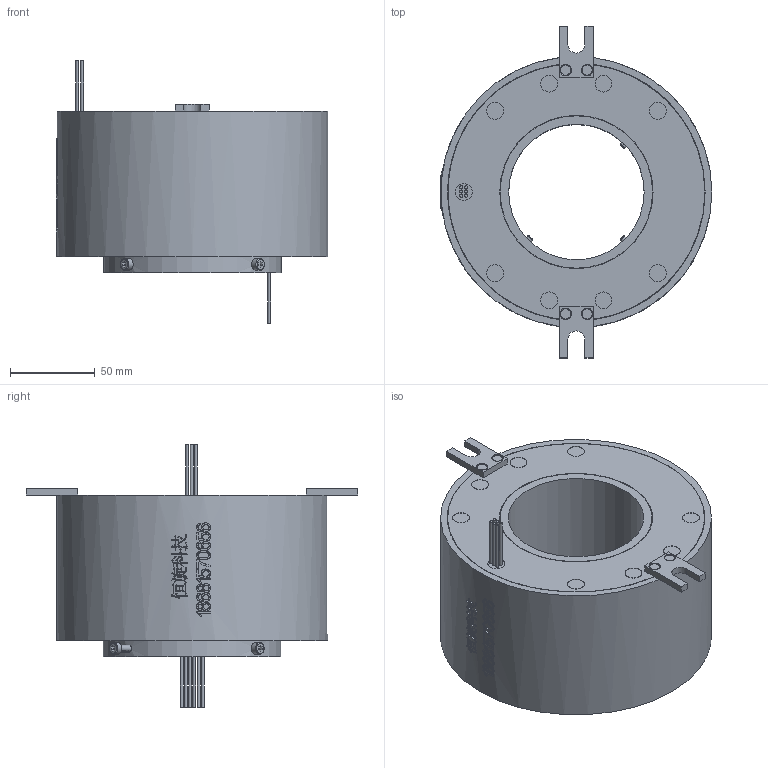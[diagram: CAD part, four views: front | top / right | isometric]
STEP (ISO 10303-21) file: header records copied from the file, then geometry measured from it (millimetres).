
FILE_DESCRIPTION(/* description */ (''),/* implementation_level */ '2;1');
FILE_NAME(/* name */ 'HDF80158-0610-3D模型.stp',/* time_stamp */ '2025-09-12T11:16:49+08:00',/* author */ (''),/* organization */ (''),/* preprocessor_version */ 'ST-DEVELOPER v16.7',/* originating_system */ 'SIEMENS PLM Software NX 12.0',/* authorisation */ '');
FILE_SCHEMA (('AUTOMOTIVE_DESIGN { 1 0 10303 214 3 1 1 1 }'));
Length unit declared in the file: millimetre
Products named in the file (1): Admi2290F644g9rj
Bounding box: 160.45 x 196 x 155.1 mm (x, y, z)
Volume: 1336343.5 mm3; surface area: 108478 mm2
Topology: 1 solids, 5 shells, 760 faces, 1984 edges, 1318 vertices
Faces by surface type: plane 329, extrusion 313, cylinder 72, bspline 30, cone 12, torus 4
Full cylindrical faces by diameter (mm): 1.8 x12, 3 x4, 3.4 x1, 3.5 x4, 4 x7, 6 x4, 7 x4, 10 x9, 80 x1, 90 x1, 90.5 x1, 105 x1, 105.5 x1, 151.8 x2, 152 x2, 160 x1
Entity records: 28921 total; most frequent: CARTESIAN_POINT 13030, ORIENTED_EDGE 3784, DIRECTION 1999, EDGE_CURVE 1892, B_SPLINE_CURVE_WITH_KNOTS 1644, VERTEX_POINT 1297, EDGE_LOOP 929, ADVANCED_FACE 760
